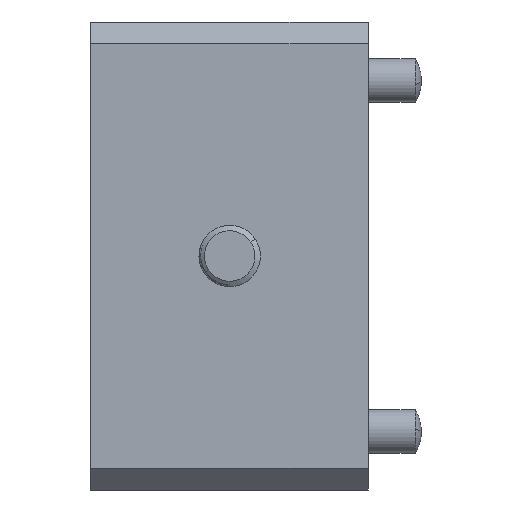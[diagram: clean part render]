
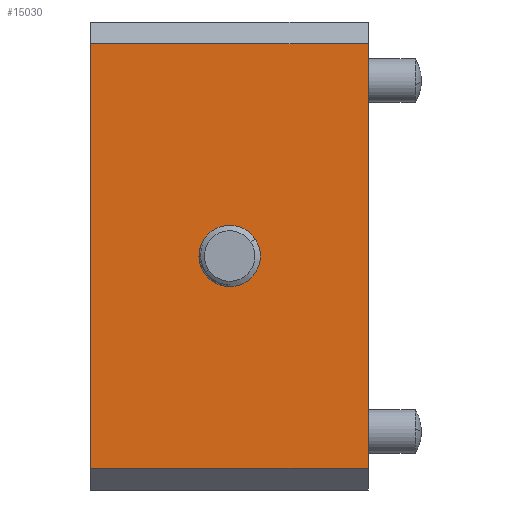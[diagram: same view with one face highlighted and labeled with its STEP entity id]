
A CAD part, left-side view. The second image highlights one B-rep face of the part: STEP entity #15030.
In plain terms, the highlighted planar face has unit normal (-1, 0, 0).
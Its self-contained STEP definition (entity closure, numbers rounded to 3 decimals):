
#331 = AXIS2_PLACEMENT_3D ( 'NONE', #7595, #18925, #9230 ) ;
#642 = DIRECTION ( 'NONE',  ( 0., 0., -1. ) ) ;
#846 = VERTEX_POINT ( 'NONE', #18687 ) ;
#1372 = AXIS2_PLACEMENT_3D ( 'NONE', #13144, #3419, #14765 ) ;
#1494 = LINE ( 'NONE', #20915, #5849 ) ;
#1513 = FACE_BOUND ( 'NONE', #11390, .T. ) ;
#1537 = ORIENTED_EDGE ( 'NONE', *, *, #5745, .T. ) ;
#1781 = CARTESIAN_POINT ( 'NONE',  ( -11., 0.356, -2.1 ) ) ;
#1828 = VECTOR ( 'NONE', #5937, 1000. ) ;
#2936 = CARTESIAN_POINT ( 'NONE',  ( -11., 0.356, 2.1 ) ) ;
#3419 = DIRECTION ( 'NONE',  ( 1., 0., 0. ) ) ;
#3556 = EDGE_CURVE ( 'NONE', #11201, #17089, #21056, .T. ) ;
#5442 = EDGE_CURVE ( 'NONE', #19053, #846, #1494, .T. ) ;
#5745 = EDGE_CURVE ( 'NONE', #17089, #11201, #7599, .T. ) ;
#5849 = VECTOR ( 'NONE', #9611, 1000. ) ;
#5866 = FACE_OUTER_BOUND ( 'NONE', #10477, .T. ) ;
#5937 = DIRECTION ( 'NONE',  ( 0., 1., 0. ) ) ;
#6385 = CARTESIAN_POINT ( 'NONE',  ( -11., 9.881, -14.5 ) ) ;
#6485 = ORIENTED_EDGE ( 'NONE', *, *, #10763, .T. ) ;
#7595 = CARTESIAN_POINT ( 'NONE',  ( -11., 0.356, 0. ) ) ;
#7599 = CIRCLE ( 'NONE', #331, 2.1 ) ;
#7786 = EDGE_CURVE ( 'NONE', #8082, #846, #16898, .T. ) ;
#8082 = VERTEX_POINT ( 'NONE', #18615 ) ;
#8776 = ORIENTED_EDGE ( 'NONE', *, *, #5442, .F. ) ;
#9230 = DIRECTION ( 'NONE',  ( 0., 0., -1. ) ) ;
#9448 = DIRECTION ( 'NONE',  ( 0., 1., 0. ) ) ;
#9454 = VECTOR ( 'NONE', #642, 1000. ) ;
#9611 = DIRECTION ( 'NONE',  ( 0., 0., -1. ) ) ;
#9655 = ORIENTED_EDGE ( 'NONE', *, *, #7786, .T. ) ;
#10441 = CARTESIAN_POINT ( 'NONE',  ( -11., 9.881, 16. ) ) ;
#10477 = EDGE_LOOP ( 'NONE', ( #20117, #9655, #8776, #6485 ) ) ;
#10628 = EDGE_CURVE ( 'NONE', #18696, #8082, #12724, .T. ) ;
#10763 = EDGE_CURVE ( 'NONE', #19053, #18696, #15296, .T. ) ;
#11059 = CARTESIAN_POINT ( 'NONE',  ( -11., -9.119, 14.5 ) ) ;
#11201 = VERTEX_POINT ( 'NONE', #1781 ) ;
#11390 = EDGE_LOOP ( 'NONE', ( #16946, #1537 ) ) ;
#12601 = VECTOR ( 'NONE', #14513, 1000. ) ;
#12724 = LINE ( 'NONE', #10441, #9454 ) ;
#13144 = CARTESIAN_POINT ( 'NONE',  ( -11., 0.356, 0. ) ) ;
#14166 = PLANE ( 'NONE',  #19618 ) ;
#14513 = DIRECTION ( 'NONE',  ( 0., -1., 0. ) ) ;
#14765 = DIRECTION ( 'NONE',  ( 0., 0., -1. ) ) ;
#15030 = ADVANCED_FACE ( 'NONE', ( #1513, #5866 ), #14166, .F. ) ;
#15296 = LINE ( 'NONE', #15555, #1828 ) ;
#15555 = CARTESIAN_POINT ( 'NONE',  ( -11., 9.881, 14.5 ) ) ;
#16402 = CARTESIAN_POINT ( 'NONE',  ( -11., 9.881, 14.5 ) ) ;
#16898 = LINE ( 'NONE', #6385, #12601 ) ;
#16946 = ORIENTED_EDGE ( 'NONE', *, *, #3556, .T. ) ;
#17089 = VERTEX_POINT ( 'NONE', #2936 ) ;
#17486 = CARTESIAN_POINT ( 'NONE',  ( -11., 9.881, 16. ) ) ;
#18615 = CARTESIAN_POINT ( 'NONE',  ( -11., 9.881, -14.5 ) ) ;
#18687 = CARTESIAN_POINT ( 'NONE',  ( -11., -9.119, -14.5 ) ) ;
#18696 = VERTEX_POINT ( 'NONE', #16402 ) ;
#18925 = DIRECTION ( 'NONE',  ( 1., 0., 0. ) ) ;
#19053 = VERTEX_POINT ( 'NONE', #11059 ) ;
#19129 = DIRECTION ( 'NONE',  ( 1., 0., 0. ) ) ;
#19618 = AXIS2_PLACEMENT_3D ( 'NONE', #17486, #19129, #9448 ) ;
#20117 = ORIENTED_EDGE ( 'NONE', *, *, #10628, .T. ) ;
#20915 = CARTESIAN_POINT ( 'NONE',  ( -11., -9.119, 16. ) ) ;
#21056 = CIRCLE ( 'NONE', #1372, 2.1 ) ;
